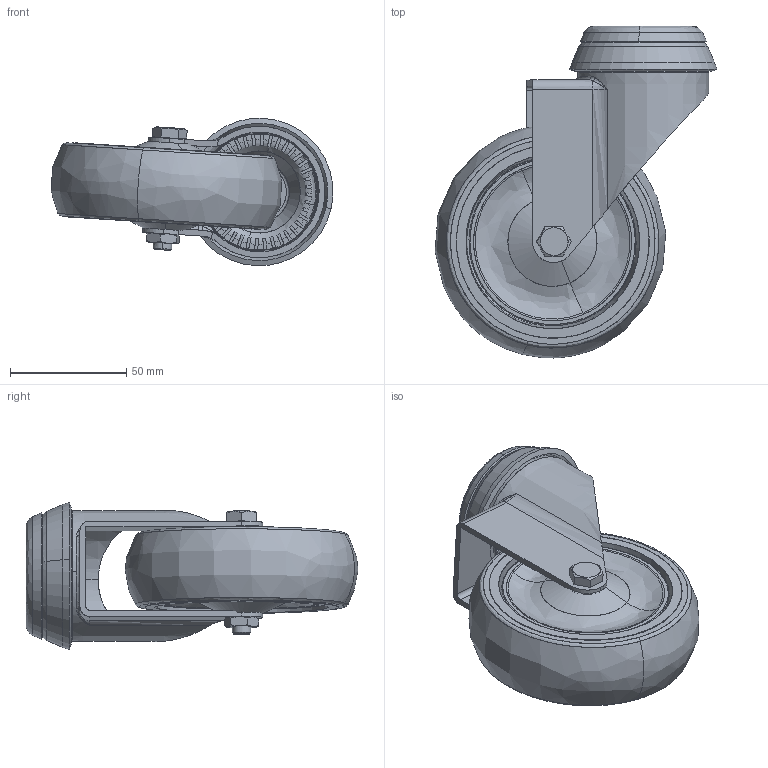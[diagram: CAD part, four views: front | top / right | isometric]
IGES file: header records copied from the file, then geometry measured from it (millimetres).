
Start section: SolidWorks IGES file using analytic representation for surfaces
Global section: file name: S:\Tyokansio\VL\14.2.2012\300341_IGES.IGS; native system: SolidWorks 2011; preprocessor: SolidWorks 2011; author: VilleLa; date: 120227.135552; units: millimetre
Bounding box: 121.14 x 142.67 x 63.32 mm (x, y, z)
Surface area: 86756.6 mm2 (no closed solid volume)
Topology: 0 solids, 0 shells, 259 faces, 3894 edges, 3892 vertices
Faces by surface type: bspline 179, revolution 80
